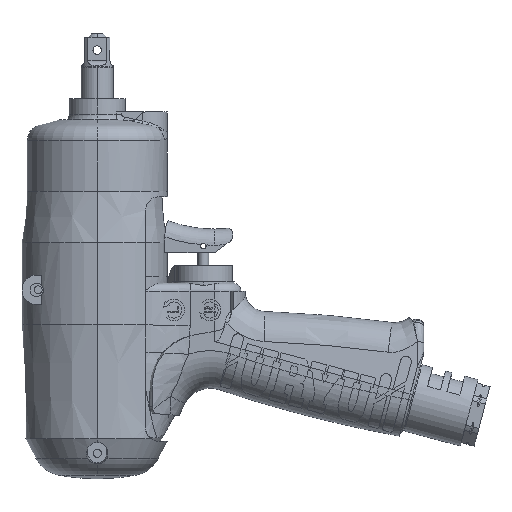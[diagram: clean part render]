
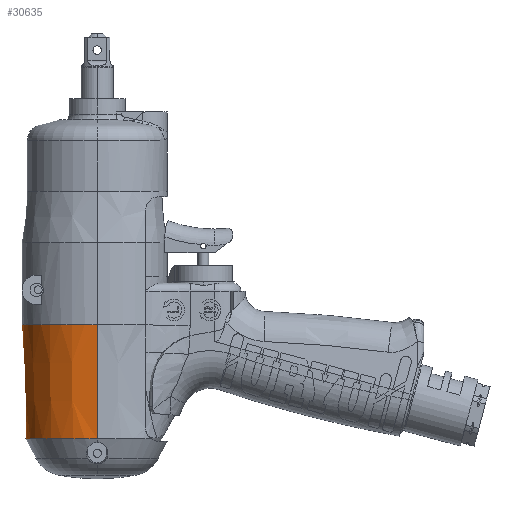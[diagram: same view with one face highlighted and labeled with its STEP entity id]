
A CAD part, left-side view. The second image highlights one B-rep face of the part: STEP entity #30635.
In plain terms, the highlighted conical face has half-angle 2 degrees and reference radius 26.532 mm.
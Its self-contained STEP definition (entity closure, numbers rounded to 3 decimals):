
#415 = EDGE_CURVE ( 'NONE', #33243, #26012, #1393, .T. ) ;
#1012 = FACE_OUTER_BOUND ( 'NONE', #17179, .T. ) ;
#1244 = CARTESIAN_POINT ( 'NONE',  ( 26.27, 6.878, -40.73 ) ) ;
#1393 = CIRCLE ( 'NONE', #24912, 26.517 ) ;
#2617 = CARTESIAN_POINT ( 'NONE',  ( -26.532, 0., -58.558 ) ) ;
#3168 = DIRECTION ( 'NONE',  ( 0., 0., 1. ) ) ;
#3679 = CARTESIAN_POINT ( 'NONE',  ( 26.532, 0., -58.558 ) ) ;
#5703 = B_SPLINE_CURVE_WITH_KNOTS ( 'NONE', 3,
 ( #13915, #40878, #9369, #18454, #49947, #22966, #54514 ),
 .UNSPECIFIED., .F., .F.,
 ( 4, 3, 4 ),
 ( 0.053, 0.053, 0.075 ),
 .UNSPECIFIED. ) ;
#5720 = CARTESIAN_POINT ( 'NONE',  ( 26.387, 6.336, -41.295 ) ) ;
#5756 = CARTESIAN_POINT ( 'NONE',  ( 0., 0., -59.001 ) ) ;
#6019 = CIRCLE ( 'NONE', #30391, 27.114 ) ;
#6610 = VECTOR ( 'NONE', #30682, 1000. ) ;
#8245 = EDGE_CURVE ( 'NONE', #26012, #39742, #11930, .T. ) ;
#9102 = EDGE_CURVE ( 'NONE', #12235, #26842, #5703, .T. ) ;
#9369 = CARTESIAN_POINT ( 'NONE',  ( 26.168, 7.5, -38.818 ) ) ;
#10285 = CARTESIAN_POINT ( 'NONE',  ( 26.564, 5.464, -41.738 ) ) ;
#10315 = DIRECTION ( 'NONE',  ( 1., 0., 0. ) ) ;
#11340 = DIRECTION ( 'NONE',  ( 1., 0., 0. ) ) ;
#11789 = CARTESIAN_POINT ( 'NONE',  ( 0., 0., -41.89 ) ) ;
#11890 = AXIS2_PLACEMENT_3D ( 'NONE', #56099, #38331, #11340 ) ;
#11902 = EDGE_CURVE ( 'NONE', #25332, #49010, #6019, .T. ) ;
#11930 = LINE ( 'NONE', #2617, #34483 ) ;
#12235 = VERTEX_POINT ( 'NONE', #50137 ) ;
#13317 = ORIENTED_EDGE ( 'NONE', *, *, #9102, .F. ) ;
#13915 = CARTESIAN_POINT ( 'NONE',  ( 26.165, 7.5, -38.89 ) ) ;
#14054 = EDGE_CURVE ( 'NONE', #12235, #49010, #50010, .T. ) ;
#14833 = CARTESIAN_POINT ( 'NONE',  ( 26.671, 4.892, -41.871 ) ) ;
#16312 = DIRECTION ( 'NONE',  ( 1., 0., 0. ) ) ;
#17179 = EDGE_LOOP ( 'NONE', ( #20730, #50123, #28065, #13317, #36097, #33521, #35033 ) ) ;
#18454 = CARTESIAN_POINT ( 'NONE',  ( 26.169, 7.5, -38.781 ) ) ;
#18529 = CARTESIAN_POINT ( 'NONE',  ( 27.114, 0., -41.89 ) ) ;
#19175 = CARTESIAN_POINT ( 'NONE',  ( 26.157, 7.48, -39.287 ) ) ;
#19372 = CARTESIAN_POINT ( 'NONE',  ( 26.738, 4.5, -41.89 ) ) ;
#20730 = ORIENTED_EDGE ( 'NONE', *, *, #415, .T. ) ;
#22966 = CARTESIAN_POINT ( 'NONE',  ( 26.708, 7.5, -23.947 ) ) ;
#23517 = CARTESIAN_POINT ( 'NONE',  ( 26.158, 7.5, -39.09 ) ) ;
#23708 = CARTESIAN_POINT ( 'NONE',  ( 26.174, 7.344, -39.866 ) ) ;
#23811 = CARTESIAN_POINT ( 'NONE',  ( -26.517, 0., -59.001 ) ) ;
#24912 = AXIS2_PLACEMENT_3D ( 'NONE', #5756, #37304, #10315 ) ;
#25293 = DIRECTION ( 'NONE',  ( -0.035, 0., 0.999 ) ) ;
#25332 = VERTEX_POINT ( 'NONE', #18529 ) ;
#25653 = AXIS2_PLACEMENT_3D ( 'NONE', #30179, #3168, #34710 ) ;
#26012 = VERTEX_POINT ( 'NONE', #23811 ) ;
#26123 = CARTESIAN_POINT ( 'NONE',  ( 26.517, 0., -59.001 ) ) ;
#26842 = VERTEX_POINT ( 'NONE', #56209 ) ;
#28065 = ORIENTED_EDGE ( 'NONE', *, *, #56125, .F. ) ;
#28203 = CARTESIAN_POINT ( 'NONE',  ( 26.223, 7.098, -40.403 ) ) ;
#30179 = CARTESIAN_POINT ( 'NONE',  ( 0., 0., -16.53 ) ) ;
#30391 = AXIS2_PLACEMENT_3D ( 'NONE', #11789, #43300, #16312 ) ;
#30635 = ADVANCED_FACE ( 'NONE', ( #1012 ), #34138, .T. ) ;
#30682 = DIRECTION ( 'NONE',  ( 0.035, 0., 0.999 ) ) ;
#32767 = CARTESIAN_POINT ( 'NONE',  ( 26.297, 6.751, -40.883 ) ) ;
#33243 = VERTEX_POINT ( 'NONE', #26123 ) ;
#33521 = ORIENTED_EDGE ( 'NONE', *, *, #11902, .F. ) ;
#34138 = CONICAL_SURFACE ( 'NONE', #11890, 26.532, 0.035 ) ;
#34483 = VECTOR ( 'NONE', #25293, 1000. ) ;
#34710 = DIRECTION ( 'NONE',  ( 1., 0., 0. ) ) ;
#35033 = ORIENTED_EDGE ( 'NONE', *, *, #36653, .F. ) ;
#36097 = ORIENTED_EDGE ( 'NONE', *, *, #14054, .T. ) ;
#36653 = EDGE_CURVE ( 'NONE', #33243, #25332, #42556, .T. ) ;
#36972 = CIRCLE ( 'NONE', #25653, 28. ) ;
#37270 = CARTESIAN_POINT ( 'NONE',  ( 26.458, 6.002, -41.516 ) ) ;
#37304 = DIRECTION ( 'NONE',  ( 0., 0., 1. ) ) ;
#38331 = DIRECTION ( 'NONE',  ( 0., 0., 1. ) ) ;
#39327 = CARTESIAN_POINT ( 'NONE',  ( -28., 0., -16.53 ) ) ;
#39742 = VERTEX_POINT ( 'NONE', #39327 ) ;
#40878 = CARTESIAN_POINT ( 'NONE',  ( 26.167, 7.5, -38.854 ) ) ;
#41603 = CARTESIAN_POINT ( 'NONE',  ( 26.165, 7.5, -38.89 ) ) ;
#41808 = CARTESIAN_POINT ( 'NONE',  ( 26.6, 5.275, -41.795 ) ) ;
#42556 = LINE ( 'NONE', #3679, #6610 ) ;
#42733 = CARTESIAN_POINT ( 'NONE',  ( 26.738, 4.5, -41.89 ) ) ;
#43300 = DIRECTION ( 'NONE',  ( 0., 0., 1. ) ) ;
#46367 = CARTESIAN_POINT ( 'NONE',  ( 26.705, 4.697, -41.89 ) ) ;
#49010 = VERTEX_POINT ( 'NONE', #42733 ) ;
#49947 = CARTESIAN_POINT ( 'NONE',  ( 26.439, 7.5, -31.364 ) ) ;
#50010 = B_SPLINE_CURVE_WITH_KNOTS ( 'NONE', 3,
 ( #41603, #23517, #19175, #50664, #23708, #55238, #28203, #1244, #32767, #5720, #37270, #10285, #41808, #14833, #46367, #19372 ),
 .UNSPECIFIED., .F., .F.,
 ( 4, 2, 2, 2, 2, 2, 2, 4 ),
 ( 0., 0.001, 0.001, 0.002, 0.002, 0.004, 0.004, 0.005 ),
 .UNSPECIFIED. ) ;
#50123 = ORIENTED_EDGE ( 'NONE', *, *, #8245, .T. ) ;
#50137 = CARTESIAN_POINT ( 'NONE',  ( 26.165, 7.5, -38.89 ) ) ;
#50664 = CARTESIAN_POINT ( 'NONE',  ( 26.165, 7.403, -39.674 ) ) ;
#54514 = CARTESIAN_POINT ( 'NONE',  ( 26.977, 7.5, -16.53 ) ) ;
#55238 = CARTESIAN_POINT ( 'NONE',  ( 26.204, 7.191, -40.23 ) ) ;
#56099 = CARTESIAN_POINT ( 'NONE',  ( 0., 0., -58.558 ) ) ;
#56125 = EDGE_CURVE ( 'NONE', #26842, #39742, #36972, .T. ) ;
#56209 = CARTESIAN_POINT ( 'NONE',  ( 26.977, 7.5, -16.53 ) ) ;
